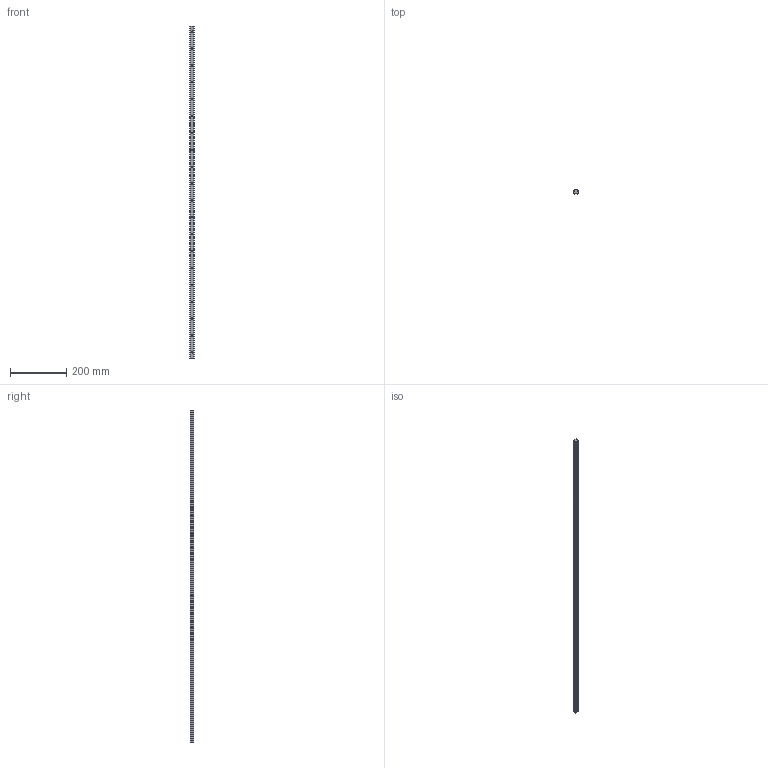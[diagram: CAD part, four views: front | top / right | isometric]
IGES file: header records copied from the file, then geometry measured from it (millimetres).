
Start section: SolidWorks IGES file using analytic representation for surfaces
Global section: file name: C:\Users\IanO\Desktop\L1016_v2\L1016.BL15_v2\L1016.BL15_v2_20190611_IGES\L1016.BL15-1180.igs; native system: SolidWorks 2017; preprocessor: SolidWorks 2017; author: IanO; date: 190612.122755; units: millimetre
Bounding box: 15 x 13 x 1180 mm (x, y, z)
Surface area: 72317.9 mm2 (no closed solid volume)
Topology: 0 solids, 0 shells, 126 faces, 3032 edges, 3032 vertices
Faces by surface type: revolution 84, bspline 42
